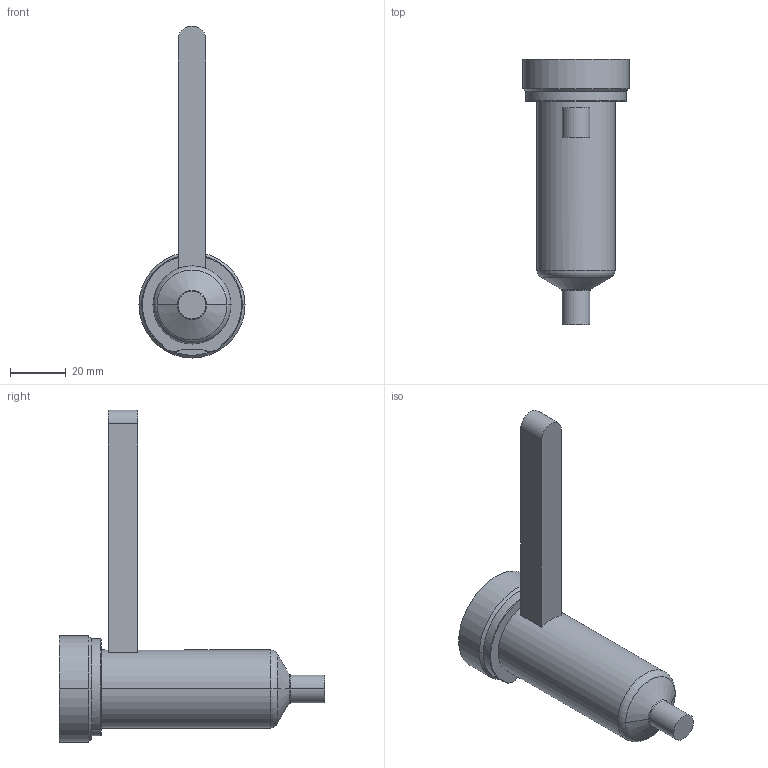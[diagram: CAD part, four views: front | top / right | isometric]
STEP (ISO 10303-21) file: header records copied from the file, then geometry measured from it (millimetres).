
FILE_DESCRIPTION((''),'2;1');
FILE_NAME('EO06_PG-FBE_WR_070_COT','2024-02-19T11:51:50',('sundharh'),(''),'CREO PARAMETRIC BY PTC INC, 2023154','CREO PARAMETRIC BY PTC INC, 2023154','');
FILE_SCHEMA(('CONFIG_CONTROL_DESIGN'));
Length unit declared in the file: millimetre
Products named in the file (1): EO06_PG-FBE_WR_070_COT
Bounding box: 38 x 95 x 119 mm (x, y, z)
Volume: 66337.9 mm3; surface area: 13366.8 mm2
Topology: 1 solids, 1 shells, 31 faces, 67 edges, 40 vertices
Faces by surface type: cylinder 11, plane 9, torus 7, cone 4
Entity records: 963 total; most frequent: CARTESIAN_POINT 230, DIRECTION 159, ORIENTED_EDGE 134, AXIS2_PLACEMENT_3D 67, EDGE_CURVE 67, VERTEX_POINT 40, CIRCLE 36, EDGE_LOOP 33
